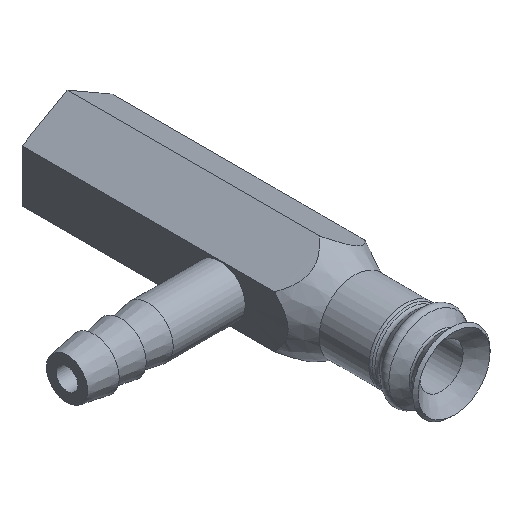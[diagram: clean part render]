
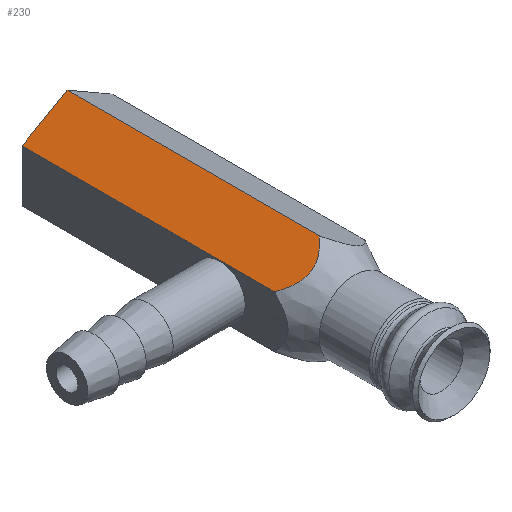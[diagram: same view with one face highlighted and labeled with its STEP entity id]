
A CAD part, isometric view. The second image highlights one B-rep face of the part: STEP entity #230.
In plain terms, the highlighted planar face has unit normal (-0.5, 0, 0.866).
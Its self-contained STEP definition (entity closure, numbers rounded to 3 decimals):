
#230=ADVANCED_FACE('',(#316),#317,.F.);
#316=FACE_OUTER_BOUND('',#458,.T.);
#317=PLANE('',#459);
#458=EDGE_LOOP('',(#659,#660,#661,#662));
#459=AXIS2_PLACEMENT_3D('',#663,#664,#665);
#659=ORIENTED_EDGE('',*,*,#835,.F.);
#660=ORIENTED_EDGE('',*,*,#847,.F.);
#661=ORIENTED_EDGE('',*,*,#825,.T.);
#662=ORIENTED_EDGE('',*,*,#818,.F.);
#663=CARTESIAN_POINT('',(-2.5,16.0,1.443));
#664=DIRECTION('',(0.5,0.0,-0.866));
#665=DIRECTION('',(0.0,-1.0,0.0));
#818=EDGE_CURVE('',#882,#883,#884,.T.);
#825=EDGE_CURVE('',#896,#883,#897,.T.);
#835=EDGE_CURVE('',#913,#882,#915,.T.);
#847=EDGE_CURVE('',#896,#913,#936,.T.);
#882=VERTEX_POINT('',#999);
#883=VERTEX_POINT('',#1000);
#884=B_SPLINE_CURVE_WITH_KNOTS('',3,(#1001,#1002,#1003,#1004,#1005,#1006,#1007,#1008,#1009,#1010,#1011,#1012,#1013,#1014,#1015,#1016,#1017,#1018),.UNSPECIFIED.,.F.,.F.,(4,1,1,1,1,1,1,1,1,1,1,1,1,1,1,4),(0.0,0.07,0.135,0.196,0.253,0.306,0.357,0.405,0.453,0.5,0.597,0.7,0.773,0.85,0.918,1.0),.UNSPECIFIED.);
#896=VERTEX_POINT('',#1113);
#897=LINE('',#1114,#1115);
#913=VERTEX_POINT('',#1134);
#915=LINE('',#1137,#1138);
#936=LINE('',#1163,#1164);
#999=CARTESIAN_POINT('',(0.0,1.974,2.887));
#1000=CARTESIAN_POINT('',(-2.5,1.974,1.443));
#1001=CARTESIAN_POINT('',(0.,1.974,2.887));
#1002=CARTESIAN_POINT('',(-0.049,1.92,2.859));
#1003=CARTESIAN_POINT('',(-0.144,1.817,2.805));
#1004=CARTESIAN_POINT('',(-0.289,1.676,2.721));
#1005=CARTESIAN_POINT('',(-0.429,1.553,2.639));
#1006=CARTESIAN_POINT('',(-0.568,1.449,2.559));
#1007=CARTESIAN_POINT('',(-0.704,1.364,2.48));
#1008=CARTESIAN_POINT('',(-0.84,1.298,2.401));
#1009=CARTESIAN_POINT('',(-0.975,1.25,2.323));
#1010=CARTESIAN_POINT('',(-1.112,1.221,2.244));
#1011=CARTESIAN_POINT('',(-1.297,1.208,2.138));
#1012=CARTESIAN_POINT('',(-1.537,1.244,1.999));
#1013=CARTESIAN_POINT('',(-1.785,1.354,1.857));
#1014=CARTESIAN_POINT('',(-1.997,1.494,1.733));
#1015=CARTESIAN_POINT('',(-2.169,1.634,1.633));
#1016=CARTESIAN_POINT('',(-2.338,1.797,1.538));
#1017=CARTESIAN_POINT('',(-2.443,1.912,1.477));
#1018=CARTESIAN_POINT('',(-2.5,1.974,1.443));
#1113=CARTESIAN_POINT('',(-2.5,16.0,1.443));
#1114=CARTESIAN_POINT('',(-2.5,16.0,1.443));
#1115=VECTOR('',#1232,1.0);
#1134=CARTESIAN_POINT('',(0.0,16.0,2.887));
#1137=CARTESIAN_POINT('',(0.0,16.0,2.887));
#1138=VECTOR('',#1252,1.0);
#1163=CARTESIAN_POINT('',(-2.5,16.0,1.443));
#1164=VECTOR('',#1278,1.0);
#1232=DIRECTION('',(0.0,-1.0,0.0));
#1252=DIRECTION('',(0.0,-1.0,0.0));
#1278=DIRECTION('',(0.866,0.0,0.5));
